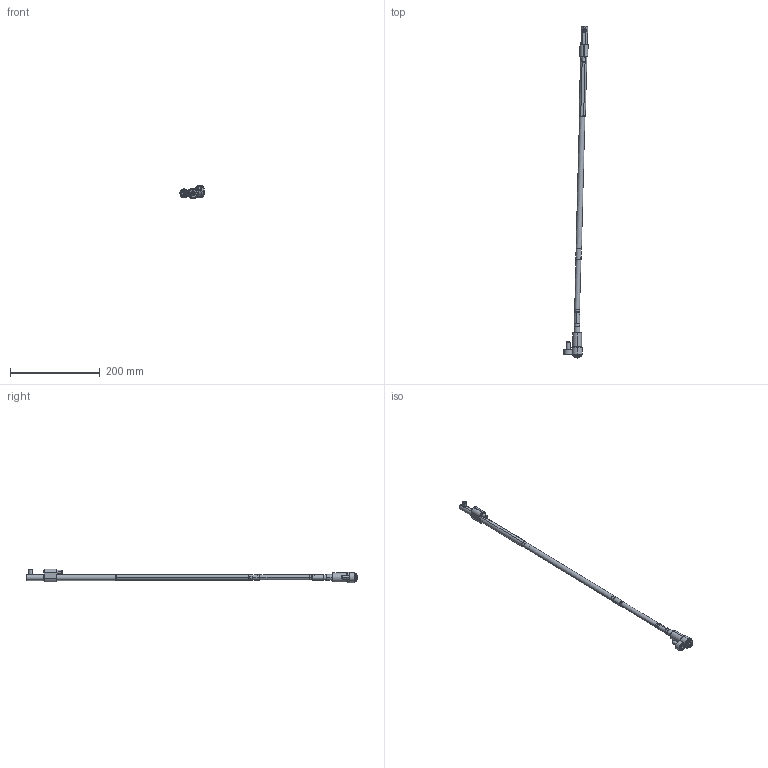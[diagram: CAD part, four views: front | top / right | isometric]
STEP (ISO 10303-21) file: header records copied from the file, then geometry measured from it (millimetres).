
FILE_DESCRIPTION (( 'STEP AP214' ), '1' );
FILE_NAME ('WL120100-EJE 1,5°.STEP', '2021-03-19T15:33:10', ( '' ), ( '' ), 'SwSTEP 2.0', 'SolidWorks 2019', '' );
FILE_SCHEMA (( 'AUTOMOTIVE_DESIGN' ));
Length unit declared in the file: millimetre
Products named in the file (17): WL120100-D; 1DIN912820_DIN 912 M8 x 20 --- 20C; Web-WL12-A8; 9DR2808-TOR; 3IMAN5X3-150_con sellador; WL120100-E; WL120100-B; 1DIN912645_DIN 912 M6 x 45 --- 45C; Web-WL12-XX_ON-WL120100-1,5; WL120100-B1; 8WL12EJEP; Web-WL12-A1; WL120100-EJE 1,5°; Web-WL12-F00.SLDPRT; Web-WL12-A2; Web-WL12-F01; Web-WL12-A3
Assembly tree (16 placements, depth 3):
  WL120100-EJE 1,5°
    Web-WL12-A8
    Web-WL12-XX_ON-WL120100-1,5
    Web-WL12-A3
    Web-WL12-A2
    Web-WL12-A1
    Web-WL12-F00.SLDPRT
      Web-WL12-F01
      1DIN912820_DIN 912 M8 x 20 --- 20C
      1DIN912645_DIN 912 M6 x 45 --- 45C
    WL120100-D
    8WL12EJEP
    WL120100-E
    9DR2808-TOR
    WL120100-B
      WL120100-B1
      3IMAN5X3-150_con sellador
Bounding box: 53.9 x 737.96 x 29.9 mm (x, y, z)
Volume: 113341.8 mm3; surface area: 49842.4 mm2
Topology: 15 solids, 15 shells, 432 faces, 906 edges, 525 vertices
Faces by surface type: plane 139, cylinder 123, cone 120, torus 50
Entity records: 13661 total; most frequent: DIRECTION 2240, CARTESIAN_POINT 2104, ORIENTED_EDGE 1788, AXIS2_PLACEMENT_3D 929, EDGE_CURVE 894, VERTEX_POINT 525, EDGE_LOOP 477, CIRCLE 476
